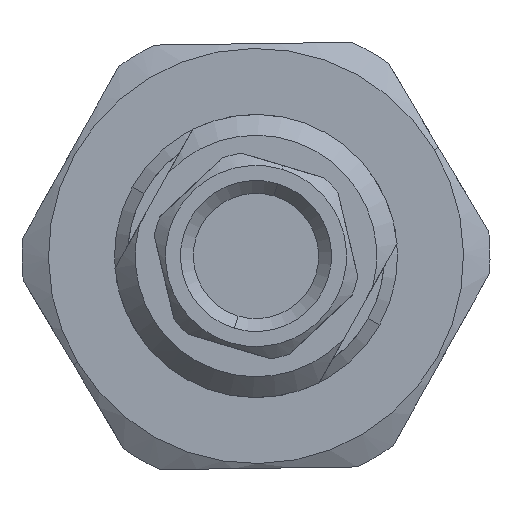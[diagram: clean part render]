
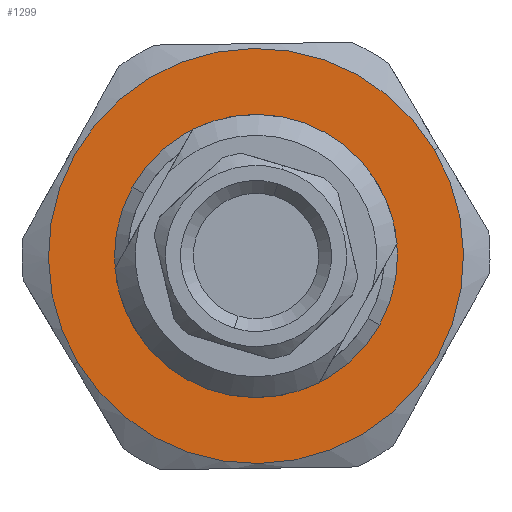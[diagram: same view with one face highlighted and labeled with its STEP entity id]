
A CAD part, left-side view. The second image highlights one B-rep face of the part: STEP entity #1299.
In plain terms, the highlighted planar face has unit normal (-1, 0, 0).
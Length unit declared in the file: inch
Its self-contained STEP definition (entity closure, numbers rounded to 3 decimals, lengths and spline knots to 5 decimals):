
#161 = EDGE_CURVE ( 'NONE', #3587, #3599, #919, .T. ) ;
#299 = CARTESIAN_POINT ( 'NONE',  ( -2.61506, 0.52252, 0.47721 ) ) ;
#300 = DIRECTION ( 'NONE',  ( -1., 0., 0. ) ) ;
#301 = DIRECTION ( 'NONE',  ( 0., 0.859, -0.512 ) ) ;
#437 = CARTESIAN_POINT ( 'NONE',  ( -2.61506, 0.75873, 0.33639 ) ) ;
#470 = CARTESIAN_POINT ( 'NONE',  ( -2.61506, 0.35884, 0.38574 ) ) ;
#482 = CARTESIAN_POINT ( 'NONE',  ( -2.61506, 0.68619, 0.56868 ) ) ;
#492 = CARTESIAN_POINT ( 'NONE',  ( -2.61506, 0.28631, 0.61803 ) ) ;
#813 = AXIS2_PLACEMENT_3D ( 'NONE', #3355, #3354, #3353 ) ;
#825 = AXIS2_PLACEMENT_3D ( 'NONE', #2844, #2845, #2846 ) ;
#919 = CIRCLE ( 'NONE', #813, 0.1875 ) ;
#925 = CIRCLE ( 'NONE', #965, 0.1875 ) ;
#965 = AXIS2_PLACEMENT_3D ( 'NONE', #2923, #2924, #2925 ) ;
#992 = CIRCLE ( 'NONE', #825, 0.275 ) ;
#1028 = AXIS2_PLACEMENT_3D ( 'NONE', #2757, #2770, #2771 ) ;
#1299 = ADVANCED_FACE ( 'NONE', ( #2764, #2768 ), #2769, .T. ) ;
#1315 = EDGE_CURVE ( 'NONE', #3609, #3566, #992, .T. ) ;
#1335 = EDGE_CURVE ( 'NONE', #3599, #3587, #925, .T. ) ;
#1999 = ORIENTED_EDGE ( 'NONE', *, *, #1335, .F. ) ;
#2060 = ORIENTED_EDGE ( 'NONE', *, *, #2634, .T. ) ;
#2085 = ORIENTED_EDGE ( 'NONE', *, *, #161, .F. ) ;
#2197 = ORIENTED_EDGE ( 'NONE', *, *, #1315, .T. ) ;
#2320 = EDGE_LOOP ( 'NONE', ( #2060, #2197 ) ) ;
#2333 = EDGE_LOOP ( 'NONE', ( #1999, #2085 ) ) ;
#2522 = CIRCLE ( 'NONE', #2532, 0.275 ) ;
#2532 = AXIS2_PLACEMENT_3D ( 'NONE', #299, #300, #301 ) ;
#2634 = EDGE_CURVE ( 'NONE', #3566, #3609, #2522, .T. ) ;
#2757 = CARTESIAN_POINT ( 'NONE',  ( -2.61506, 0.52252, 0.47721 ) ) ;
#2764 = FACE_OUTER_BOUND ( 'NONE', #2320, .T. ) ;
#2768 = FACE_BOUND ( 'NONE', #2333, .T. ) ;
#2769 = PLANE ( 'NONE',  #1028 ) ;
#2770 = DIRECTION ( 'NONE',  ( -1., 0., 0. ) ) ;
#2771 = DIRECTION ( 'NONE',  ( 0., 0.859, -0.512 ) ) ;
#2844 = CARTESIAN_POINT ( 'NONE',  ( -2.61506, 0.52252, 0.47721 ) ) ;
#2845 = DIRECTION ( 'NONE',  ( -1., 0., 0. ) ) ;
#2846 = DIRECTION ( 'NONE',  ( 0., 0.859, -0.512 ) ) ;
#2923 = CARTESIAN_POINT ( 'NONE',  ( -2.61506, 0.52252, 0.47721 ) ) ;
#2924 = DIRECTION ( 'NONE',  ( -1., 0., 0. ) ) ;
#2925 = DIRECTION ( 'NONE',  ( 0., 0., 1. ) ) ;
#3353 = DIRECTION ( 'NONE',  ( 0., 0., 1. ) ) ;
#3354 = DIRECTION ( 'NONE',  ( -1., 0., 0. ) ) ;
#3355 = CARTESIAN_POINT ( 'NONE',  ( -2.61506, 0.52252, 0.47721 ) ) ;
#3566 = VERTEX_POINT ( 'NONE', #437 ) ;
#3587 = VERTEX_POINT ( 'NONE', #470 ) ;
#3599 = VERTEX_POINT ( 'NONE', #482 ) ;
#3609 = VERTEX_POINT ( 'NONE', #492 ) ;
